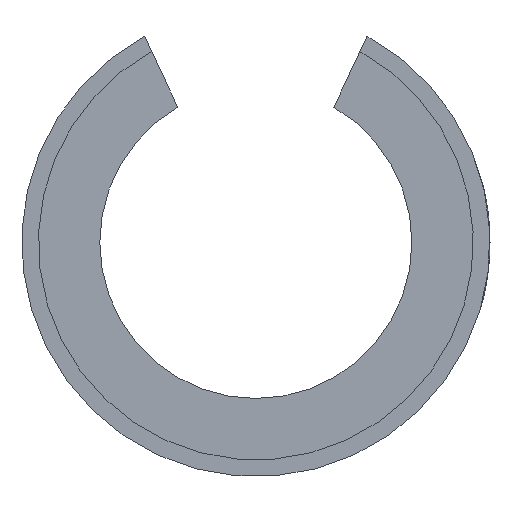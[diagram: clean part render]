
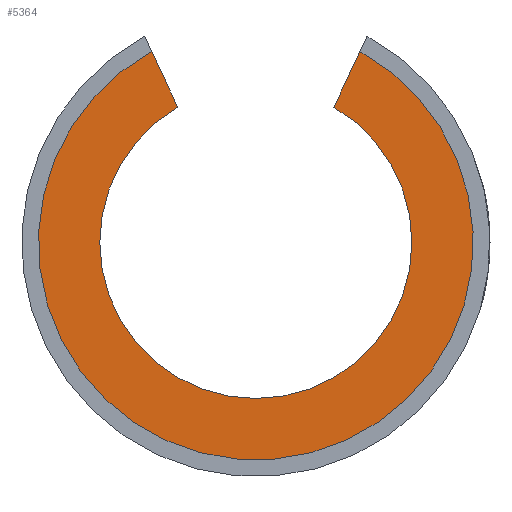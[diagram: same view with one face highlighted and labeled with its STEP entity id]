
A CAD part, left-side view. The second image highlights one B-rep face of the part: STEP entity #5364.
In plain terms, the highlighted planar face has unit normal (-1, 0, 0).
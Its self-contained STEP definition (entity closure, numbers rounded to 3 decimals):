
#125=PLANE('',#5785);
#355=CIRCLE('',#5760,50.);
#368=CIRCLE('',#5786,69.654);
#555=LINE('',#8667,#1009);
#556=LINE('',#8669,#1010);
#1009=VECTOR('',#6382,1000.);
#1010=VECTOR('',#6383,1000.);
#1642=ORIENTED_EDGE('',*,*,#3247,.T.);
#1643=ORIENTED_EDGE('',*,*,#3208,.T.);
#1644=ORIENTED_EDGE('',*,*,#3248,.T.);
#1645=ORIENTED_EDGE('',*,*,#3249,.F.);
#3208=EDGE_CURVE('',#4017,#4018,#355,.F.);
#3247=EDGE_CURVE('',#4043,#4017,#555,.T.);
#3248=EDGE_CURVE('',#4018,#4044,#556,.T.);
#3249=EDGE_CURVE('',#4043,#4044,#368,.T.);
#4017=VERTEX_POINT('',#8590);
#4018=VERTEX_POINT('',#8591);
#4043=VERTEX_POINT('',#8668);
#4044=VERTEX_POINT('',#8670);
#4574=EDGE_LOOP('',(#1642,#1643,#1644,#1645));
#4959=FACE_BOUND('',#4574,.T.);
#5364=ADVANCED_FACE('',(#4959),#125,.T.);
#5760=AXIS2_PLACEMENT_3D('',#8589,#6304,#6305);
#5785=AXIS2_PLACEMENT_3D('',#8666,#6380,#6381);
#5786=AXIS2_PLACEMENT_3D('',#8671,#6384,#6385);
#6304=DIRECTION('',(-1.,0.,0.));
#6305=DIRECTION('',(0.,0.,1.));
#6380=DIRECTION('',(-1.,0.,0.));
#6381=DIRECTION('',(0.,0.,-1.));
#6382=DIRECTION('',(0.,0.423,-0.906));
#6383=DIRECTION('',(0.,0.423,0.906));
#6384=DIRECTION('',(1.,0.,0.));
#6385=DIRECTION('',(0.,0.,-1.));
#8589=CARTESIAN_POINT('',(-81.5,0.,0.));
#8590=CARTESIAN_POINT('',(-81.5,-25.,43.301));
#8591=CARTESIAN_POINT('',(-81.5,25.,43.301));
#8666=CARTESIAN_POINT('',(-81.5,0.,0.));
#8667=CARTESIAN_POINT('',(-81.5,-25.,43.301));
#8668=CARTESIAN_POINT('',(-81.5,-33.329,61.163));
#8669=CARTESIAN_POINT('',(-81.5,25.,43.301));
#8670=CARTESIAN_POINT('',(-81.5,33.329,61.163));
#8671=CARTESIAN_POINT('',(-81.5,0.,0.));
